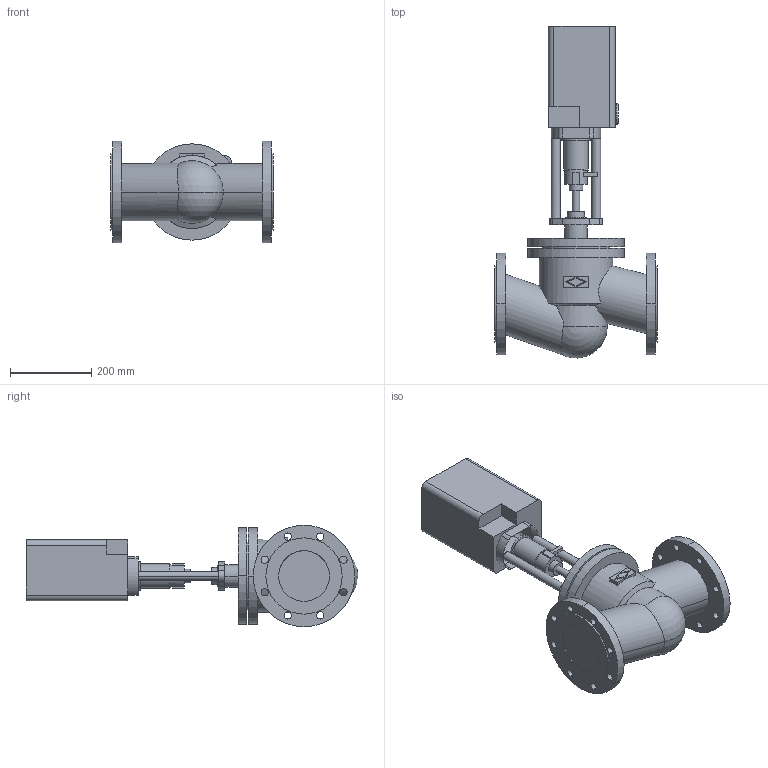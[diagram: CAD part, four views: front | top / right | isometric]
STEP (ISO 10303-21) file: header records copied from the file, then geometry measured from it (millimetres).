
FILE_DESCRIPTION(('OneSpaceDesigner STEP Export'),'2;1');
FILE_NAME('c000003119.stp','2007-01-16T10:33:08',(''),(''),'OneSpace Designer STEP processor for AP214 (Solid Model)','OneSpace Designer 14.00B 27-May-2006 (C) CoCreate Software GmbH','');
FILE_SCHEMA(('AUTOMOTIVE_DESIGN { 1 0 10303 214 1 1 1 1 }'));
Length unit declared in the file: millimetre
Products named in the file (2): 1; 2
Bounding box: 400 x 817.9 x 250 mm (x, y, z)
Volume: 19533401.3 mm3; surface area: 844272 mm2
Topology: 2 solids, 2 shells, 172 faces, 432 edges, 285 vertices
Faces by surface type: cylinder 94, plane 72, cone 2, sphere 2, torus 2
Entity records: 4965 total; most frequent: CARTESIAN_POINT 1067, ORIENTED_EDGE 860, DIRECTION 714, EDGE_CURVE 430, VERTEX_POINT 285, AXIS2_PLACEMENT_3D 253, EDGE_LOOP 227, VECTOR 208
